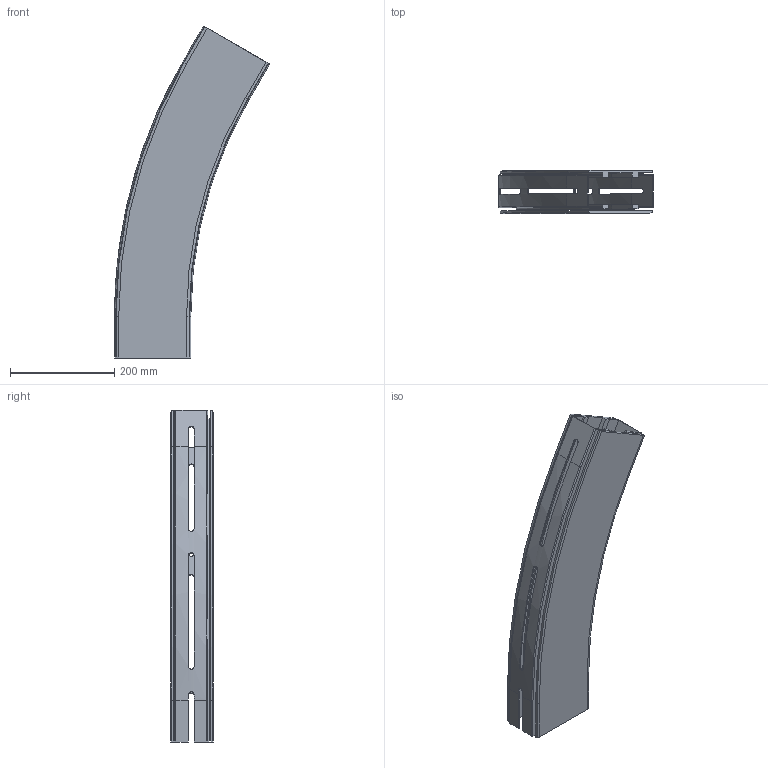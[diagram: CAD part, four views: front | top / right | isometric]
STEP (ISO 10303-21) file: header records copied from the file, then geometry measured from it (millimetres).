
FILE_DESCRIPTION(/* description */ ('GLIDKURVA SERIE 540'),/* implementation_level */ '2;1');
FILE_NAME(/* name */ '540-5375+140-2000-01.stp',/* time_stamp */ '2022-09-21T09:54:02+02:00',/* author */ ('Mathias.Dore'),/* organization */ ('CARRYLINE'),/* preprocessor_version */ 'ST-DEVELOPER v19.2',/* originating_system */ 'Autodesk Inventor 2023',/* authorisation */ '');
FILE_SCHEMA (('AUTOMOTIVE_DESIGN { 1 0 10303 214 3 1 1 }'));
Length unit declared in the file: millimetre
Products named in the file (1): 540-5375+140-2000-01
Bounding box: 296.8 x 82 x 635.78 mm (x, y, z)
Volume: 1426016.5 mm3; surface area: 735656 mm2
Topology: 2 solids, 2 shells, 171 faces, 482 edges, 316 vertices
Faces by surface type: plane 111, cylinder 30, bspline 22, cone 4, torus 4
Entity records: 6093 total; most frequent: CARTESIAN_POINT 1620, ORIENTED_EDGE 964, DIRECTION 830, EDGE_CURVE 482, LINE 346, VECTOR 346, VERTEX_POINT 316, AXIS2_PLACEMENT_3D 242
